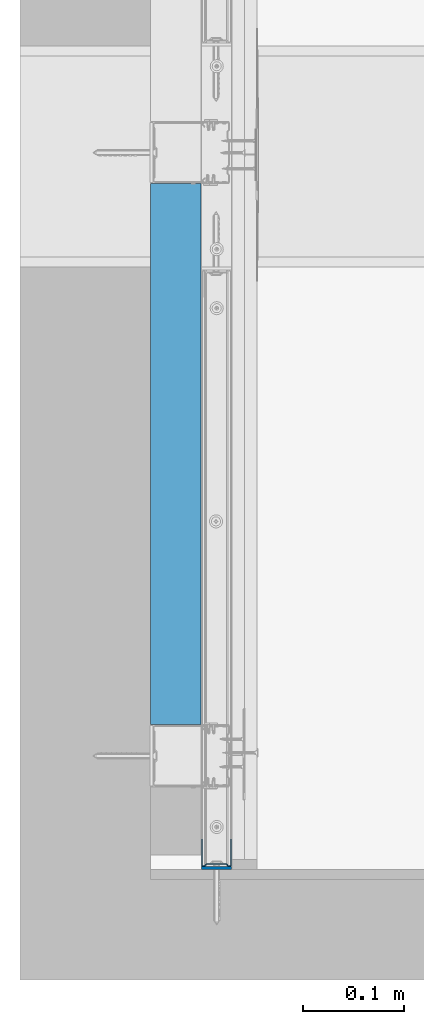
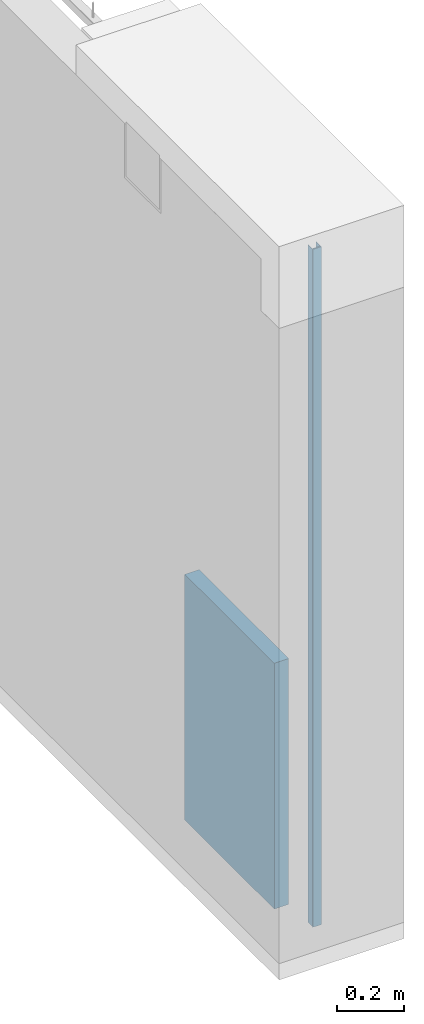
# One storey, part 3 of 67: 3 walls.
"""IFC2X3 building model written with IfcOpenShell, lengths in millimetres."""

from ifc_helpers import new_model, si_unit, frame, origin_with_axes, place, context, subcontext, project, spatial, faceted_brep, material, type_object, element, save


model = new_model("IFC2X3")

# Units and contexts
model_context = context("Model", 3, world=origin_with_axes())
body_context = subcontext(model_context, "Body", "Model", "MODEL_VIEW")
ifc_project = project(units=[si_unit("LENGTHUNIT", "METRE", prefix="MILLI"), si_unit("AREAUNIT", "SQUARE_METRE"), si_unit("VOLUMEUNIT", "CUBIC_METRE")], contexts=[model_context])

# Site, building, storey
site_placement = place(None, frame((2152.14102611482, 674.9749105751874, 57.61556563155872), z_axis=(0.0, 0.0, 1.0), x_axis=(-1.1102230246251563e-16, 1.0, 0.0)))
site = spatial("IfcSite", under=ifc_project, at=site_placement, Name="Default Site", CompositionType="ELEMENT")
building_placement = place(site_placement, origin_with_axes())
building = spatial("IfcBuilding", under=site, at=building_placement, Name="Default Building", CompositionType="ELEMENT")
storey_placement = place(building_placement, origin_with_axes())
storey = spatial("IfcBuildingStorey", under=building, at=storey_placement, Name="Default Building Storey", CompositionType="ELEMENT", Elevation=57.61556563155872)

# Walls
ifc_material_1 = material(Name="Undefined")
wall_type_1 = type_object("IfcWallType", Name="Wypełnienie z wełny mineralnej szklanej ISOVER#5", PredefinedType="NOTDEFINED")
wall_1_placement = place(storey_placement, frame((2102.5765458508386, 5350.424146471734, -7.900000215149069), z_axis=(0.0, 0.0, 1.0), x_axis=(-1.0, 4.718447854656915e-16, 0.0)))
element("IfcWall", 1, at=wall_1_placement, inside=storey, type_object=wall_type_1, material=ifc_material_1, Name="Wypełnienie z wełny mineralnej szklanej ISOVER", context=body_context, shape_type="Brep", body=[
    faceted_brep([(-166.46054244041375, 3328.2832634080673, 10.28402615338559), (-166.46054244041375, 3378.2831687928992, 10.28402615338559), (-166.46054244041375, 3378.2831687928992, 911.5436077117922), (-166.46054244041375, 3328.2832634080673, 911.5436077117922), (-704.4605239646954, 3378.2831687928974, 911.5436077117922), (-704.4605239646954, 3378.2831687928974, 10.28402615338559), (-704.4605239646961, 3328.283263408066, 10.28402615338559), (-704.4605239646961, 3328.283263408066, 911.5436077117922)], [[[0, 1, 2, 3]], [[4, 2, 1, 5]], [[5, 1, 0, 6]], [[6, 0, 3, 7]]]),
    faceted_brep([(-704.4605239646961, 3328.283263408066, 911.5436077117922), (-704.4605239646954, 3378.2831687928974, 911.5436077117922), (-704.4605239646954, 3378.2831687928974, 10.28402615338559), (-704.4605239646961, 3328.283263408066, 10.28402615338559), (-166.46054244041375, 3328.2832634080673, 911.5436077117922), (-166.46054244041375, 3378.2831687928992, 911.5436077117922)], [[[0, 1, 2, 3]], [[0, 4, 5, 1]]]),
])
ifc_material_2 = material(Name="Undefined9")
wall_type_2 = type_object("IfcWallType", Name="Profil RIGIPS UD 30 GypSerra®/Ultrastil®#8", PredefinedType="NOTDEFINED")
wall_2_placement = place(storey_placement, frame((2014.0500851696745, 472.86017491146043, 2903.5735859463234), z_axis=(1.0, 6.860037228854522e-13, 6.133982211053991e-14), x_axis=(6.133982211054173e-14, -2.6462982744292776e-15, -1.0)))
element("IfcWall", 2, at=wall_2_placement, inside=storey, type_object=wall_type_2, material=ifc_material_2, Name="Profil RIGIPS UD 30 GypSerra®/Ultrastil®", context=body_context, shape_type="Brep", body=[
    faceted_brep([(2898.189556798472, 1469.9159860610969, 140.97499847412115), (2898.189556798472, 1469.366073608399, 140.97499847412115), (2898.18955679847, 1469.3660736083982, 114.77500200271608), (2898.1895567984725, 1469.3758487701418, 114.64985460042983), (2898.1895567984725, 1469.405174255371, 114.52778428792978), (2898.1895567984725, 1469.4532155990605, 114.41180855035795), (2898.1895567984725, 1469.518780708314, 114.30477350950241), (2898.1895567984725, 1469.6003198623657, 114.20931667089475), (2898.1895567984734, 1469.6958065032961, 114.12778496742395), (2898.1895567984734, 1469.8028564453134, 114.06219750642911), (2898.1895567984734, 1469.9188470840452, 114.01415616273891), (2898.1895567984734, 1470.0409173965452, 113.98485302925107), (2898.1895567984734, 1470.1660871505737, 113.97500336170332), (2898.1895567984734, 1472.0159769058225, 113.97500336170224), (2898.1895567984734, 1472.1635580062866, 113.98871988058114), (2898.1895567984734, 1472.3060131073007, 114.02940750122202), (2898.1895567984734, 1472.438573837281, 114.09565806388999), (2898.1895567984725, 1472.5565910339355, 114.1852140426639), (2898.1895567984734, 1472.6560115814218, 114.29499834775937), (2898.1895567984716, 1473.6760854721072, 115.6549975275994), (2898.1895567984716, 1473.7755060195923, 115.7647818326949), (2898.1895567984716, 1473.8935232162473, 115.85433781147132), (2898.189556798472, 1474.026083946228, 115.92059582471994), (2898.189556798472, 1474.1685390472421, 115.96128344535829), (2898.189556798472, 1474.316000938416, 115.9749999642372), (2898.1895567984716, 1493.6159849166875, 115.9749999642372), (2898.1895567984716, 1493.7635660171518, 115.96128344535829), (2898.1895567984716, 1493.906021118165, 115.92059582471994), (2898.1895567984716, 1494.0385818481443, 115.85433781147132), (2898.1895567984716, 1494.1565990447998, 115.76478183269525), (2898.1895567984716, 1494.256019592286, 115.6549975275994), (2898.1895567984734, 1495.2759742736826, 114.29499834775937), (2898.1895567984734, 1495.3755140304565, 114.18521404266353), (2898.1895567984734, 1495.4935312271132, 114.09565806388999), (2898.1895567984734, 1495.6260919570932, 114.02940750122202), (2898.1895567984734, 1495.7685470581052, 113.98871988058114), (2898.1895567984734, 1495.9160089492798, 113.97500336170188), (2898.1895567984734, 1497.7660179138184, 113.97500336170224), (2898.1895567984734, 1497.8911876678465, 113.98485302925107), (2898.1895567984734, 1498.0132579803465, 114.01415616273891), (2898.1895567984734, 1498.1292486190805, 114.06219750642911), (2898.1895567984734, 1498.2362985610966, 114.12778496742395), (2898.1895567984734, 1498.3316659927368, 114.20931667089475), (2898.1895567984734, 1498.4132051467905, 114.30477350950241), (2898.1895567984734, 1498.4788894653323, 114.41180855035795), (2898.1895567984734, 1498.5269308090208, 114.52778428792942), (2898.1895567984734, 1498.5561370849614, 114.64985460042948), (2898.189556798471, 1498.5660314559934, 114.77500200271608), (2898.189556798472, 1498.5660314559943, 140.97499847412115), (2898.189556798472, 1498.0159997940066, 140.97499847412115), (2898.189556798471, 1498.0159997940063, 114.77500200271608), (2898.1895567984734, 1498.012900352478, 114.73589390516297), (2898.1895567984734, 1498.0038404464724, 114.6977469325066), (2898.1895567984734, 1497.9888200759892, 114.66149985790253), (2898.1895567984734, 1497.9683160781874, 114.62805420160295), (2898.1895567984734, 1497.9428052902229, 114.59822207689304), (2898.1895567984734, 1497.9130029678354, 114.572748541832), (2898.1895567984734, 1497.8795051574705, 114.55225199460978), (2898.1895567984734, 1497.843265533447, 114.53723907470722), (2898.1895567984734, 1497.8051185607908, 114.52807486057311), (2898.1895567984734, 1497.7660179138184, 114.52499777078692), (2898.1895567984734, 1495.9160089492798, 114.52499777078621), (2898.1895567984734, 1495.8698749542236, 114.5292893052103), (2898.1895567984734, 1495.825409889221, 114.54199999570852), (2898.1895567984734, 1495.784044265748, 114.5627051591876), (2898.1895567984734, 1495.7470893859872, 114.59068953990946), (2898.1895567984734, 1495.715975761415, 114.62499946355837), (2898.1895567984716, 1494.6960210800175, 115.9849986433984), (2898.189556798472, 1494.5281744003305, 116.17025732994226), (2898.1895567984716, 1494.3289756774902, 116.32138490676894), (2898.1895567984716, 1494.1053390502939, 116.43319576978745), (2898.1895567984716, 1493.8650131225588, 116.5018528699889), (2898.1895567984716, 1493.6159849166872, 116.52500182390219), (2898.189556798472, 1474.3160009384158, 116.52500182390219), (2898.189556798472, 1474.067091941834, 116.5018528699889), (2898.189556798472, 1473.8266468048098, 116.43319576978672), (2898.189556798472, 1473.6031293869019, 116.32138490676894), (2898.189556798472, 1473.403930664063, 116.17025732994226), (2898.189556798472, 1473.2360839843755, 115.9849986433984), (2898.1895567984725, 1472.2160100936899, 114.62499946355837), (2898.1895567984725, 1472.1848964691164, 114.59068953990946), (2898.1895567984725, 1472.1480607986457, 114.56270515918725), (2898.1895567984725, 1472.1066951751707, 114.54199999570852), (2898.1895567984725, 1472.0621109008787, 114.5292893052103), (2898.1895567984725, 1472.0159769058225, 114.52499777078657), (2898.1895567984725, 1470.1660871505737, 114.52499777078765), (2898.1895567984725, 1470.1268672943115, 114.52807486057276), (2898.1895567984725, 1470.088720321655, 114.53723907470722), (2898.1895567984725, 1470.0524806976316, 114.55225199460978), (2898.1895567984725, 1470.0191020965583, 114.572748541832), (2898.1895567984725, 1469.98929977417, 114.59822207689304), (2898.1895567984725, 1469.9637889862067, 114.62805420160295), (2898.1895567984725, 1469.943284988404, 114.66149985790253), (2898.1895567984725, 1469.9282646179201, 114.6977469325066), (2898.1895567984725, 1469.9190855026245, 114.73589390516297), (2898.18955679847, 1469.915986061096, 114.77500200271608), (413.18956407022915, 1469.366073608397, 114.77500200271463), (413.18956407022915, 1469.3660736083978, 140.97499847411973), (413.18956407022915, 1469.9159860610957, 140.97499847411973), (413.18956407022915, 1469.915986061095, 114.77500200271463), (413.18956407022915, 1469.9190855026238, 114.73589390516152), (413.18956407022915, 1469.9282646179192, 114.69774693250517), (413.18956407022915, 1469.9432849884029, 114.66149985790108), (413.18956407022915, 1469.9637889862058, 114.62805420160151), (413.18956407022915, 1469.989299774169, 114.59822207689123), (413.18956407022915, 1470.0191020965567, 114.57274854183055), (413.18956407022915, 1470.05248069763, 114.55225199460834), (413.18956407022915, 1470.0887203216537, 114.53723907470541), (413.18956407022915, 1470.1268672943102, 114.52807486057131), (413.18956407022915, 1470.1660871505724, 114.52499777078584), (413.18956407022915, 1472.0159769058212, 114.52499777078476), (413.18956407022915, 1472.0621109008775, 114.5292893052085), (413.18956407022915, 1472.1066951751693, 114.54199999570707), (413.18956407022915, 1472.148060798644, 114.5627051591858), (413.18956407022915, 1472.1848964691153, 114.59068953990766), (413.18956407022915, 1472.2160100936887, 114.62499946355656), (413.18956407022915, 1473.2360839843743, 115.9849986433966), (413.18956407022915, 1473.4039306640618, 116.17025732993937), (413.1895640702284, 1473.603129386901, 116.32138490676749), (413.1895640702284, 1473.826646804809, 116.43319576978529), (413.1895640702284, 1474.0670919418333, 116.501852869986), (413.1895640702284, 1474.3160009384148, 116.52500182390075), (413.18956407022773, 1493.6159849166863, 116.52500182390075), (413.18956407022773, 1493.8650131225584, 116.50185286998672), (413.18956407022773, 1494.1053390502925, 116.43319576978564), (413.18956407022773, 1494.3289756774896, 116.32138490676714), (413.1895640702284, 1494.528174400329, 116.17025732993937), (413.1895640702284, 1494.6960210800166, 115.98499864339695), (413.1895640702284, 1495.7159757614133, 114.62499946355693), (413.1895640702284, 1495.7470893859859, 114.59068953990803), (413.1895640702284, 1495.7840442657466, 114.5627051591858), (413.1895640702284, 1495.82540988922, 114.54199999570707), (413.1895640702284, 1495.8698749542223, 114.5292893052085), (413.1895640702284, 1495.9160089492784, 114.52499777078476), (413.1895640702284, 1497.766017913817, 114.52499777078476), (413.1895640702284, 1497.8051185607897, 114.52807486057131), (413.1895640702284, 1497.843265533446, 114.53723907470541), (413.1895640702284, 1497.879505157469, 114.55225199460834), (413.1895640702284, 1497.913002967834, 114.57274854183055), (413.1895640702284, 1497.9428052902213, 114.59822207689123), (413.1895640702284, 1497.9683160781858, 114.62805420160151), (413.1895640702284, 1497.9888200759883, 114.66149985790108), (413.1895640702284, 1498.0038404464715, 114.69774693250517), (413.1895640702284, 1498.0129003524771, 114.73589390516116), (413.1895640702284, 1498.015999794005, 114.77500200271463), (413.1895640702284, 1498.0159997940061, 140.97499847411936), (413.1895640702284, 1498.5660314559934, 140.97499847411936), (413.1895640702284, 1498.5660314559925, 114.77500200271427), (413.1895640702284, 1498.5561370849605, 114.64985460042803), (413.1895640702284, 1498.5269308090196, 114.52778428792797), (413.1895640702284, 1498.4788894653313, 114.41180855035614), (413.1895640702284, 1498.4132051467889, 114.30477350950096), (413.1895640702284, 1498.3316659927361, 114.2093166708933), (413.1895640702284, 1498.2362985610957, 114.12778496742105), (413.1895640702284, 1498.1292486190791, 114.06219750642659), (413.18956407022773, 1498.0132579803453, 114.01415616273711), (413.1895640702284, 1497.8911876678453, 113.98485302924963), (413.1895640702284, 1497.766017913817, 113.97500336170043), (413.1895640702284, 1495.9160089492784, 113.97500336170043), (413.1895640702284, 1495.7685470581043, 113.98871988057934), (413.18956407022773, 1495.626091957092, 114.02940750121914), (413.1895640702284, 1495.4935312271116, 114.0956580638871), (413.1895640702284, 1495.3755140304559, 114.1852140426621), (413.1895640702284, 1495.2759742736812, 114.29499834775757), (413.1895640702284, 1494.2560195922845, 115.65499752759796), (413.1895640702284, 1494.1565990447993, 115.76478183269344), (413.1895640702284, 1494.0385818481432, 115.8543378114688), (413.1895640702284, 1493.9060211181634, 115.92059582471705), (413.1895640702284, 1493.7635660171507, 115.96128344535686), (413.1895640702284, 1493.6159849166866, 115.97499996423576), (413.18956407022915, 1474.3160009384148, 115.97499996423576), (413.18956407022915, 1474.168539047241, 115.96128344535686), (413.18956407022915, 1474.0260839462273, 115.92059582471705), (413.18956407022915, 1473.8935232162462, 115.85433781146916), (413.18956407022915, 1473.7755060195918, 115.76478183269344), (413.18956407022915, 1473.6760854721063, 115.65499752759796), (413.18956407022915, 1472.6560115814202, 114.29499834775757), (413.18956407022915, 1472.5565910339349, 114.1852140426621), (413.18956407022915, 1472.43857383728, 114.0956580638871), (413.1895640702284, 1472.3060131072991, 114.02940750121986), (413.1895640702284, 1472.163558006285, 113.98871988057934), (413.1895640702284, 1472.0159769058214, 113.97500336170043), (413.1895640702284, 1470.1660871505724, 113.97500336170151), (413.1895640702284, 1470.040917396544, 113.98485302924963), (413.1895640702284, 1469.918847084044, 114.01415616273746), (413.18956407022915, 1469.8028564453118, 114.06219750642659), (413.18956407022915, 1469.6958065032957, 114.12778496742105), (413.18956407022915, 1469.6003198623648, 114.20931667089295), (413.18956407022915, 1469.5187807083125, 114.30477350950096), (413.18956407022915, 1469.4532155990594, 114.4118085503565), (413.18956407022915, 1469.4051742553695, 114.52778428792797), (413.18956407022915, 1469.3758487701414, 114.64985460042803)], [[[0, 1, 2, 3, 4, 5, 6, 7, 8, 9, 10, 11, 12, 13, 14, 15, 16, 17, 18, 19, 20, 21, 22, 23, 24, 25, 26, 27, 28, 29, 30, 31, 32, 33, 34, 35, 36, 37, 38, 39, 40, 41, 42, 43, 44, 45, 46, 47, 48, 49, 50, 51, 52, 53, 54, 55, 56, 57, 58, 59, 60, 61, 62, 63, 64, 65, 66, 67, 68, 69, 70, 71, 72, 73, 74, 75, 76, 77, 78, 79, 80, 81, 82, 83, 84, 85, 86, 87, 88, 89, 90, 91, 92, 93, 94, 95]], [[96, 97, 98, 99, 100, 101, 102, 103, 104, 105, 106, 107, 108, 109, 110, 111, 112, 113, 114, 115, 116, 117, 118, 119, 120, 121, 122, 123, 124, 125, 126, 127, 128, 129, 130, 131, 132, 133, 134, 135, 136, 137, 138, 139, 140, 141, 142, 143, 144, 145, 146, 147, 148, 149, 150, 151, 152, 153, 154, 155, 156, 157, 158, 159, 160, 161, 162, 163, 164, 165, 166, 167, 168, 169, 170, 171, 172, 173, 174, 175, 176, 177, 178, 179, 180, 181, 182, 183, 184, 185, 186, 187, 188, 189, 190, 191]], [[23, 171, 170, 24]], [[22, 172, 171, 23]], [[175, 174, 20, 19]], [[172, 22, 21, 173]], [[20, 174, 173, 21]], [[24, 170, 169, 25]], [[29, 165, 164, 30]], [[165, 29, 28, 166]], [[27, 167, 166, 28]], [[169, 168, 26, 25]], [[26, 168, 167, 27]], [[30, 164, 163, 31]], [[35, 159, 158, 36]], [[34, 160, 159, 35]], [[33, 32, 162, 161]], [[161, 160, 34, 33]], [[163, 162, 32, 31]], [[36, 158, 157, 37]], [[46, 45, 149, 148]], [[148, 147, 47, 46]], [[44, 150, 149, 45]], [[43, 42, 152, 151]], [[151, 150, 44, 43]], [[41, 40, 154, 153]], [[153, 152, 42, 41]], [[39, 155, 154, 40]], [[38, 37, 157, 156]], [[156, 155, 39, 38]], [[47, 147, 146, 48]], [[48, 146, 145, 49]], [[49, 145, 144, 50]], [[134, 60, 59, 135]], [[58, 136, 135, 59]], [[57, 137, 136, 58]], [[137, 57, 56, 138]], [[55, 139, 138, 56]], [[139, 55, 54, 140]], [[53, 141, 140, 54]], [[52, 142, 141, 53]], [[142, 52, 51, 143]], [[50, 144, 143, 51]], [[60, 134, 133, 61]], [[65, 129, 128, 66]], [[129, 65, 64, 130]], [[63, 131, 130, 64]], [[133, 132, 62, 61]], [[62, 132, 131, 63]], [[66, 128, 127, 67]], [[71, 123, 122, 72]], [[70, 69, 125, 124]], [[124, 123, 71, 70]], [[68, 126, 125, 69]], [[127, 126, 68, 67]], [[72, 122, 121, 73]], [[77, 117, 116, 78]], [[76, 118, 117, 77]], [[75, 74, 120, 119]], [[119, 118, 76, 75]], [[121, 120, 74, 73]], [[78, 116, 115, 79]], [[83, 111, 110, 84]], [[82, 112, 111, 83]], [[115, 114, 80, 79]], [[112, 82, 81, 113]], [[80, 114, 113, 81]], [[84, 110, 109, 85]], [[99, 95, 94, 100]], [[93, 101, 100, 94]], [[92, 102, 101, 93]], [[102, 92, 91, 103]], [[90, 104, 103, 91]], [[104, 90, 89, 105]], [[88, 106, 105, 89]], [[87, 107, 106, 88]], [[107, 87, 86, 108]], [[85, 109, 108, 86]], [[95, 99, 98, 0]], [[0, 98, 97, 1]], [[1, 97, 96, 2]], [[11, 10, 184, 183]], [[183, 182, 12, 11]], [[9, 185, 184, 10]], [[6, 5, 189, 188]], [[7, 6, 188, 187]], [[8, 7, 187, 186]], [[186, 185, 9, 8]], [[4, 190, 189, 5]], [[3, 2, 96, 191]], [[191, 190, 4, 3]], [[12, 182, 181, 13]], [[17, 177, 176, 18]], [[16, 15, 179, 178]], [[178, 177, 17, 16]], [[14, 180, 179, 15]], [[181, 180, 14, 13]], [[18, 176, 175, 19]]]),
])
ifc_material_3 = material(Name="Undefined13")
wall_type_3 = type_object("IfcWallType", Name="Taśma uszczelniająca piankowa RIGIPS#1", PredefinedType="NOTDEFINED")
wall_3_placement = place(storey_placement, frame((2014.05009124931, 472.86029412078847, 3492.9105228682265), z_axis=(1.0, 6.860037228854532e-13, 6.150635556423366e-14), x_axis=(6.150635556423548e-14, -2.6462982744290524e-15, -1.0)))
element("IfcWall", 3, at=wall_3_placement, inside=storey, type_object=wall_type_3, material=ifc_material_3, Name="Taśma uszczelniająca piankowa RIGIPS", context=body_context, shape_type="Brep", body=[
    faceted_brep([(1002.5265009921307, 1498.9659786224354, 113.97500336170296), (1002.5265009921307, 1498.965978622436, 110.97499728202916), (1002.5265009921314, 1468.9660072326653, 110.97499728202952), (1002.5265009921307, 1468.9660072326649, 113.97500336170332), (3487.5264937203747, 1498.9659786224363, 110.97499728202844), (3487.5264937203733, 1498.9659786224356, 113.97500336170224), (3487.5264937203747, 1468.966007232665, 113.97500336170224), (3487.5264937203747, 1468.9660072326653, 110.97499728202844)], [[[0, 1, 2, 3]], [[4, 5, 6, 7]], [[5, 0, 3, 6]], [[6, 3, 2, 7]], [[7, 2, 1, 4]], [[4, 1, 0, 5]]]),
])

save(model, "model.ifc")
